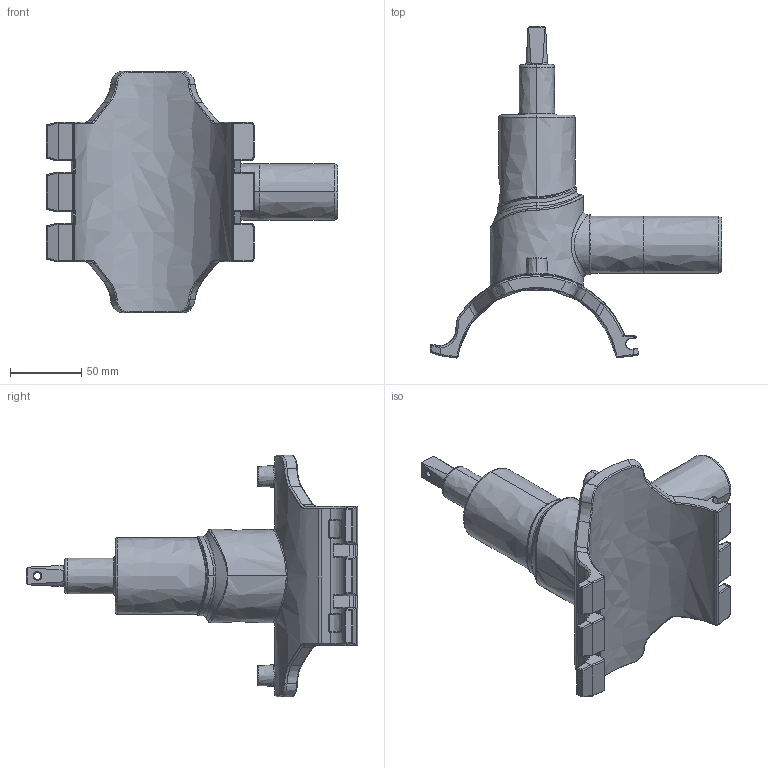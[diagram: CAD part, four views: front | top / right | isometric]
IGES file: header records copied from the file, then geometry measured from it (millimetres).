
Start section:  PTC IGES file: dav2_d110_40_01.igs
Global section: file name: dav2_d110_40_01.igs; native system: Creo Parametric by PTC Inc.; preprocessor: 2019030; author: mikulicp; organization: Unknown; date: 20200429.142324; units: millimetre
Bounding box: 204.95 x 233.26 x 170 mm (x, y, z)
Surface area: 101102.5 mm2 (no closed solid volume)
Topology: 0 solids, 0 shells, 571 faces, 2768 edges, 2762 vertices
Faces by surface type: bspline 571
